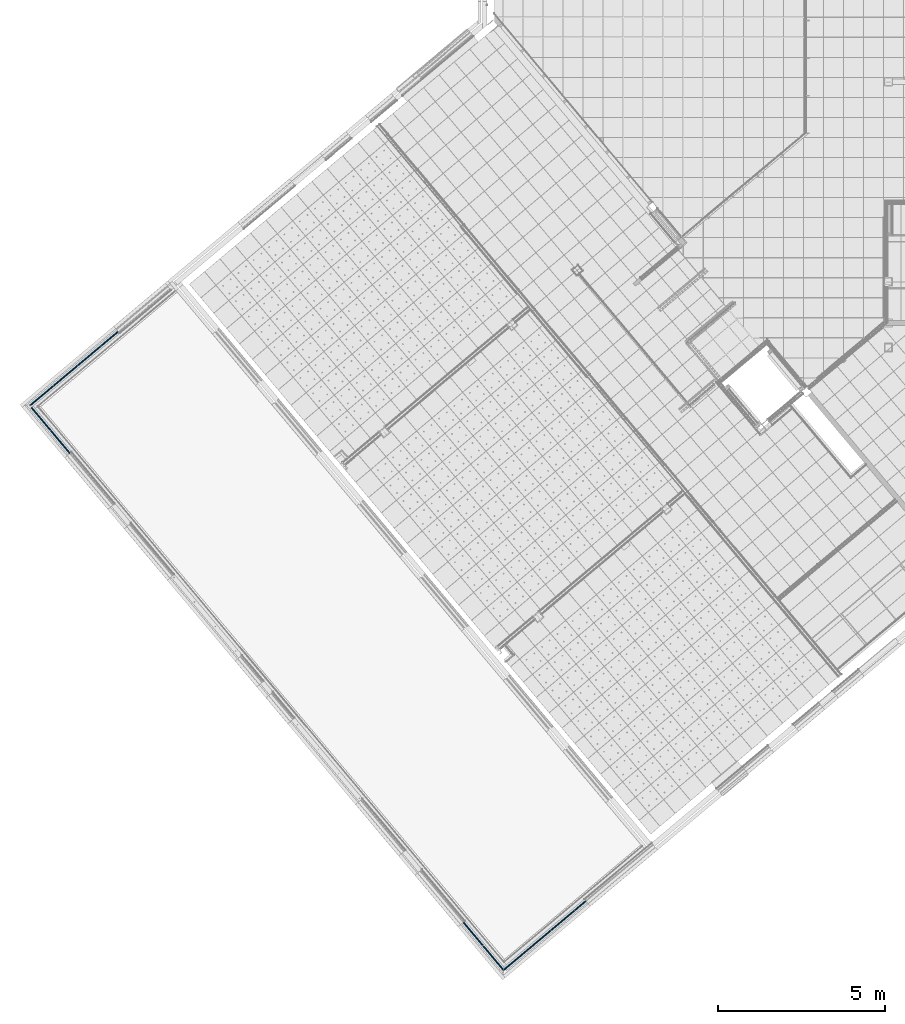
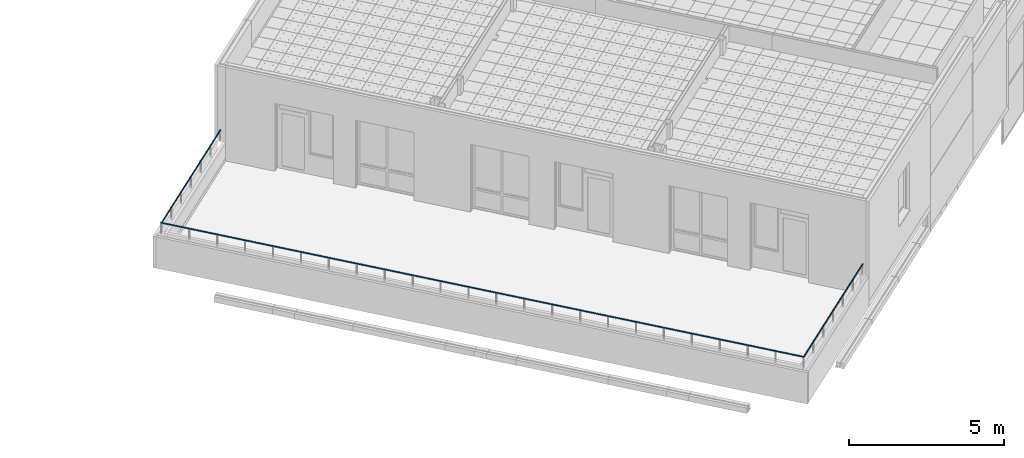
# One storey, part 31 of 321: 3 members, 1 element without a shape of its own.
"""IFC2X3 building model written with IfcOpenShell, lengths in millimetres."""

from ifc_helpers import new_model, entity, si_unit, converted_unit, derived_unit, money_unit, direction, frame, origin_with_axes, place, context, subcontext, project, spatial, faceted_brep, material, type_object, element, aggregate, save


model = new_model("IFC2X3")

# Units and contexts
model_context = context("Model", 3, precision=0.01, world=origin_with_axes(), true_north=direction((0.0, 1.0)))
plan_context = context("Plan", 3, precision=0.01, world=origin_with_axes(), true_north=direction((0.0, 1.0)))
body_context = subcontext(model_context, "Body", "Model", "MODEL_VIEW")
ifc_project = project(units=[si_unit("LENGTHUNIT", "METRE", prefix="MILLI"), si_unit("AREAUNIT", "SQUARE_METRE"), si_unit("VOLUMEUNIT", "CUBIC_METRE"), converted_unit("PLANEANGLEUNIT", "DEGREE", entity("IfcPlaneAngleMeasure", 0.0174532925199), si_unit("PLANEANGLEUNIT", "RADIAN"), dimensions=[0, 0, 0, 0, 0, 0, 0]), money_unit("EUR"), converted_unit("TIMEUNIT", "Year", entity("IfcTimeMeasure", 31556926.0), si_unit("TIMEUNIT", "SECOND"), dimensions=[0, 0, 1, 0, 0, 0, 0]), si_unit("MASSUNIT", "GRAM", prefix="KILO"), si_unit("THERMODYNAMICTEMPERATUREUNIT", "DEGREE_CELSIUS"), si_unit("LUMINOUSINTENSITYUNIT", "LUMEN"), si_unit("ENERGYUNIT", "JOULE", prefix="MEGA"), derived_unit("THERMALCONDUCTANCEUNIT", [(si_unit("POWERUNIT", "WATT"), 1), (si_unit("LENGTHUNIT", "METRE"), -1), (si_unit("THERMODYNAMICTEMPERATUREUNIT", "KELVIN"), -1)]), derived_unit("SPECIFICHEATCAPACITYUNIT", [(si_unit("ENERGYUNIT", "JOULE"), 1), (si_unit("MASSUNIT", "GRAM", prefix="KILO"), -1), (si_unit("THERMODYNAMICTEMPERATUREUNIT", "KELVIN"), -1)]), derived_unit("MASSDENSITYUNIT", [(si_unit("MASSUNIT", "GRAM", prefix="KILO"), 1), (si_unit("VOLUMEUNIT", "CUBIC_METRE"), -1)])], contexts=[model_context, plan_context])

# Site, building, storey
site_placement = place(None, origin_with_axes())
site = spatial("IfcSite", under=ifc_project, at=site_placement, Name="Fortuinstraat Woensdrecht", CompositionType="ELEMENT")
building_placement = place(site_placement, origin_with_axes())
building = spatial("IfcBuilding", under=site, at=building_placement, Name="IKC Fortuna", CompositionType="ELEMENT")
storey_placement = place(building_placement, frame((0.0, 0.0, 4000.0), z_axis=(0.0, 0.0, 1.0), x_axis=(1.0, 0.0, 0.0)))
storey = spatial("IfcBuildingStorey", under=building, at=storey_placement, Name="01 eerste verdieping", CompositionType="ELEMENT", Elevation=4000.0)

# Railing, members
railing_type = type_object("IfcRailingType", Name="Railing Type", PredefinedType="NOTDEFINED")
railing_placement = place(storey_placement, frame((4151.56334028, 3601.06192057, 2353.5), z_axis=(0.0, 0.0, 1.0), x_axis=(1.0, 0.0, 0.0)))
railing = element("IfcRailing", 1, at=railing_placement, inside=storey, type_object=railing_type, Name="34_Reling_Reling vide", PredefinedType="NOTDEFINED")
ifc_material = material(Name="Metaal - Staal AFW")
member_type = type_object("IfcMemberType", Name="IfcMember", PredefinedType="USERDEFINED")
member_1_placement = place(railing_placement, frame((-2118.70122323, -1803.90955766, 394.098300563), z_axis=(0.0, 0.0, 1.0), x_axis=(1.0, 0.0, 0.0)))
member_1 = element("IfcMember", 2, at=member_1_placement, type_object=member_type, material=ifc_material, Name="_Reling - regel_", context=body_context, shape_type="Brep", body=[
    faceted_brep([(2147.550051, 1769.3732735, 30.9016994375), (2147.3059163, 1769.66422191, 35.2429038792), (-2096.79464255, -1791.5589917, 35.2429038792), (-2096.25955944, -1791.60580541, 30.9016994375), (2147.3059163, 1769.66422191, 26.5604949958), (2146.5809301, 1770.52822682, 22.3511958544), (2145.39712074, 1771.93903587, 18.4016994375), (2143.79045767, 1773.85378235, 14.8320091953), (2141.80975854, 1776.21428766, 11.7505883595), (2139.51520588, 1778.94882904, 9.25106434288), (2136.97651852, 1781.97431882, 7.40938391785), (2134.27083319, 1785.19882904, 6.28150561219), (2131.48036076, 1788.52438458, 5.9016994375), (2128.68988833, 1791.84994011, 6.28150561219), (2125.984203, 1795.07445033, 7.40938391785), (2123.44551564, 1798.09994011, 9.25106434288), (2121.15096298, 1800.83448149, 11.7505883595), (2119.17026385, 1803.1949868, 14.8320091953), (2117.56360078, 1805.10973328, 18.4016994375), (2116.37979142, 1806.52054233, 22.3511958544), (2115.65480522, 1807.38454724, 26.5604949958), (2115.41067052, 1807.67549565, 30.9016994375), (2115.65480522, 1807.38454724, 35.2429038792), (2116.37979142, 1806.52054233, 39.4522030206), (2117.56360078, 1805.10973328, 43.4016994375), (2119.17026385, 1803.1949868, 46.9713896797), (2121.15096298, 1800.83448149, 50.0528105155), (2123.44551564, 1798.09994011, 52.5523345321), (2125.984203, 1795.07445033, 54.3940149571), (2128.68988833, 1791.84994011, 55.5218932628), (2131.48036076, 1788.52438458, 55.9016994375), (2134.27083319, 1785.19882904, 55.5218932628), (2136.97651852, 1781.97431882, 54.3940149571), (2139.51520588, 1778.94882904, 52.5523345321), (2141.80975854, 1776.21428766, 50.0528105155), (2143.79045767, 1773.85378235, 46.9713896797), (2145.39712074, 1771.93903587, 43.4016994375), (2146.5809301, 1770.52822682, 39.4522030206), (2146.26447578, 1770.90536238, 30.9016994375), (2146.03987186, 1771.17303492, 34.8956075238), (2145.37288455, 1771.96791944, 38.768162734), (2144.28377994, 1773.26586377, 42.4016994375), (2142.80564992, 1775.02743053, 45.6858144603), (2140.98340672, 1777.19909542, 48.5207216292), (2138.87241827, 1779.71487348, 50.8202837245), (2136.5368259, 1782.49832408, 52.5146297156), (2134.04759539, 1785.46487348, 53.5522777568), (2131.48036076, 1788.52438458, 53.9016994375), (2128.91312613, 1791.58389567, 53.5522777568), (2126.42389562, 1794.55044507, 52.5146297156), (2124.08830325, 1797.33389567, 50.8202837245), (2121.9773148, 1799.84967373, 48.5207216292), (2120.1550716, 1802.02133862, 45.6858144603), (2118.67694158, 1803.78290538, 42.4016994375), (2117.58783697, 1805.08084971, 38.768162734), (2116.92084966, 1805.87573423, 34.8956075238), (2116.69624574, 1806.14340677, 30.9016994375), (2116.92084966, 1805.87573423, 26.9077913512), (2117.58783697, 1805.08084971, 23.035236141), (2118.67694158, 1803.78290538, 19.4016994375), (2120.1550716, 1802.02133862, 16.1175844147), (2121.9773148, 1799.84967373, 13.2826772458), (2124.08830325, 1797.33389567, 10.9831151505), (2126.42389562, 1794.55044507, 9.28876915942), (2128.91312613, 1791.58389567, 8.25112111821), (2131.48036076, 1788.52438458, 7.90169943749), (2134.04759539, 1785.46487348, 8.25112111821), (2136.5368259, 1782.49832408, 9.28876915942), (2138.87241827, 1779.71487348, 10.9831151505), (2140.98340672, 1777.19909542, 13.2826772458), (2142.80564992, 1775.02743053, 16.1175844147), (2144.28377994, 1773.26586377, 19.4016994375), (2145.37288455, 1771.96791944, 23.035236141), (2146.03987186, 1771.17303492, 26.9077913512), (-2098.38363366, -1791.41997299, 39.4522030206), (-2100.97825207, -1791.1929733, 43.4016994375), (-2104.49966162, -1790.88488988, 46.9713896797), (-2108.84086607, -1790.50508371, 50.0528105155), (-2113.8699601, -1790.06509499, 52.5523345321), (-2119.43413724, -1789.57829257, 54.3940149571), (-2125.36433279, -1789.05946769, 55.5218932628), (-2131.48036076, -1788.52438458, 55.9016994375), (-2137.59638873, -1787.98930146, 55.5218932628), (-2143.52658428, -1787.47047658, 54.3940149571), (-2149.09076142, -1786.98367416, 52.5523345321), (-2154.11985545, -1786.54368544, 50.0528105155), (-2158.4610599, -1786.16387927, 46.9713896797), (-2161.98246945, -1785.85579585, 43.4016994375), (-2164.57708786, -1785.62879616, 39.4522030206), (-2166.16607897, -1785.48977745, 35.2429038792), (-2166.70116208, -1785.44296374, 30.9016994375), (-2166.16607897, -1785.48977745, 26.5604949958), (-2164.57708786, -1785.62879616, 22.3511958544), (-2161.98246945, -1785.85579585, 18.4016994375), (-2158.4610599, -1786.16387927, 14.8320091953), (-2154.11985545, -1786.54368544, 11.7505883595), (-2149.09076142, -1786.98367416, 9.25106434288), (-2143.52658428, -1787.47047658, 7.40938391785), (-2137.59638873, -1787.98930146, 6.28150561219), (-2131.48036076, -1788.52438458, 5.9016994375), (-2125.36433279, -1789.05946769, 6.28150561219), (-2119.43413724, -1789.57829257, 7.40938391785), (-2113.8699601, -1790.06509499, 9.25106434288), (-2108.84086607, -1790.50508371, 11.7505883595), (-2104.49966162, -1790.88488988, 14.8320091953), (-2100.97825207, -1791.1929733, 18.4016994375), (-2098.38363366, -1791.41997299, 22.3511958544), (-2096.79464255, -1791.5589917, 26.5604949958), (-2099.07722354, -1791.35929174, 30.9016994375), (-2099.56950001, -1791.31622313, 26.9077913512), (-2101.03137183, -1791.18832592, 23.035236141), (-2103.41842077, -1790.9794862, 19.4016994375), (-2106.65811755, -1790.69604946, 16.1175844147), (-2110.65202564, -1790.34662778, 13.2826772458), (-2115.27879215, -1789.94183816, 10.9831151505), (-2120.39783512, -1789.49397993, 9.28876915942), (-2125.85361503, -1789.01666104, 8.25112111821), (-2131.48036076, -1788.52438458, 7.90169943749), (-2137.10710649, -1788.03210811, 8.25112111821), (-2142.56288639, -1787.55478922, 9.28876915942), (-2147.68192937, -1787.10693099, 10.9831151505), (-2152.30869588, -1786.70214137, 13.2826772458), (-2156.30260396, -1786.35271969, 16.1175844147), (-2159.54230075, -1786.06928295, 19.4016994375), (-2161.92934969, -1785.86044323, 23.035236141), (-2163.39122151, -1785.73254602, 26.9077913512), (-2163.88349798, -1785.68947741, 30.9016994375), (-2163.39122151, -1785.73254602, 34.8956075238), (-2161.92934969, -1785.86044323, 38.768162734), (-2159.54230075, -1786.06928295, 42.4016994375), (-2156.30260396, -1786.35271969, 45.6858144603), (-2152.30869588, -1786.70214137, 48.5207216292), (-2147.68192937, -1787.10693099, 50.8202837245), (-2142.56288639, -1787.55478922, 52.5146297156), (-2137.10710649, -1788.03210811, 53.5522777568), (-2131.48036076, -1788.52438458, 53.9016994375), (-2125.85361503, -1789.01666104, 53.5522777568), (-2120.39783512, -1789.49397993, 52.5146297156), (-2115.27879215, -1789.94183816, 50.8202837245), (-2110.65202564, -1790.34662778, 48.5207216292), (-2106.65811755, -1790.69604946, 45.6858144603), (-2103.41842077, -1790.9794862, 42.4016994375), (-2101.03137183, -1791.18832592, 38.768162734), (-2099.56950001, -1791.31622313, 34.8956075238)], [[[0, 1, 2, 3]], [[0, 4, 5, 6, 7, 8, 9, 10, 11, 12, 13, 14, 15, 16, 17, 18, 19, 20, 21, 22, 23, 24, 25, 26, 27, 28, 29, 30, 31, 32, 33, 34, 35, 36, 37, 1], [38, 39, 40, 41, 42, 43, 44, 45, 46, 47, 48, 49, 50, 51, 52, 53, 54, 55, 56, 57, 58, 59, 60, 61, 62, 63, 64, 65, 66, 67, 68, 69, 70, 71, 72, 73]], [[1, 37, 74, 2]], [[3, 2, 74, 75, 76, 77, 78, 79, 80, 81, 82, 83, 84, 85, 86, 87, 88, 89, 90, 91, 92, 93, 94, 95, 96, 97, 98, 99, 100, 101, 102, 103, 104, 105, 106, 107], [108, 109, 110, 111, 112, 113, 114, 115, 116, 117, 118, 119, 120, 121, 122, 123, 124, 125, 126, 127, 128, 129, 130, 131, 132, 133, 134, 135, 136, 137, 138, 139, 140, 141, 142, 143]], [[4, 0, 3, 107]], [[5, 4, 107, 106]], [[6, 5, 106, 105]], [[7, 6, 105, 104]], [[8, 7, 104, 103]], [[9, 8, 103, 102]], [[10, 9, 102, 101]], [[11, 10, 101, 100]], [[12, 11, 100, 99]], [[13, 12, 99, 98]], [[14, 13, 98, 97]], [[15, 14, 97, 96]], [[16, 15, 96, 95]], [[17, 16, 95, 94]], [[18, 17, 94, 93]], [[19, 18, 93, 92]], [[20, 19, 92, 91]], [[21, 20, 91, 90]], [[22, 21, 90, 89]], [[23, 22, 89, 88]], [[24, 23, 88, 87]], [[25, 24, 87, 86]], [[26, 25, 86, 85]], [[27, 26, 85, 84]], [[28, 27, 84, 83]], [[29, 28, 83, 82]], [[30, 29, 82, 81]], [[31, 30, 81, 80]], [[32, 31, 80, 79]], [[33, 32, 79, 78]], [[34, 33, 78, 77]], [[35, 34, 77, 76]], [[36, 35, 76, 75]], [[37, 36, 75, 74]], [[39, 38, 108, 143]], [[40, 39, 143, 142]], [[41, 40, 142, 141]], [[42, 41, 141, 140]], [[43, 42, 140, 139]], [[44, 43, 139, 138]], [[45, 44, 138, 137]], [[46, 45, 137, 136]], [[47, 46, 136, 135]], [[48, 47, 135, 134]], [[49, 48, 134, 133]], [[50, 49, 133, 132]], [[51, 50, 132, 131]], [[52, 51, 131, 130]], [[53, 52, 130, 129]], [[54, 53, 129, 128]], [[55, 54, 128, 127]], [[56, 55, 127, 126]], [[57, 56, 126, 125]], [[58, 57, 125, 124]], [[59, 58, 124, 123]], [[60, 59, 123, 122]], [[61, 60, 122, 121]], [[62, 61, 121, 120]], [[63, 62, 120, 119]], [[64, 63, 119, 118]], [[65, 64, 118, 117]], [[66, 65, 117, 116]], [[67, 66, 116, 115]], [[68, 67, 115, 114]], [[69, 68, 114, 113]], [[70, 69, 113, 112]], [[71, 70, 112, 111]], [[72, 71, 111, 110]], [[73, 72, 110, 109]], [[38, 73, 109, 108]]]),
])
member_2_placement = place(railing_placement, frame((2842.33687427, -12044.9682928, 394.098300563), z_axis=(0.0, 0.0, 1.0), x_axis=(1.0, 0.0, 0.0)))
member_2 = element("IfcMember", 3, at=member_2_placement, type_object=member_type, material=ifc_material, Name="_Reling - regel_", context=body_context, shape_type="Brep", body=[
    faceted_brep([(-7057.29765694, 8449.45292976, 30.9016994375), (-7057.83274005, 8449.49974347, 35.2429038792), (7095.55307328, -8417.84864179, 35.2429038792), (7095.5998871, -8417.31355882, 30.9016994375), (-7057.83274005, 8449.49974347, 26.5604949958), (-7059.42173116, 8449.63876217, 22.3511958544), (-7062.01634957, 8449.86576187, 18.4016994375), (-7065.53775912, 8450.17384529, 14.8320091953), (-7069.87896357, 8450.55365146, 11.7505883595), (-7074.9080576, 8450.99364018, 9.25106434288), (-7080.47223474, 8451.4804426, 7.40938391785), (-7086.40243029, 8451.99926748, 6.28150561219), (-7092.51845826, 8452.53435059, 5.9016994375), (-7098.63448622, 8453.06943371, 6.28150561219), (-7104.56468178, 8453.58825859, 7.40938391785), (-7110.12885892, 8454.07506101, 9.25106434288), (-7115.15795295, 8454.51504972, 11.7505883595), (-7119.49915739, 8454.8948559, 14.8320091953), (-7123.02056695, 8455.20293931, 18.4016994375), (-7125.61518536, 8455.42993901, 22.3511958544), (-7127.20417647, 8455.56895772, 26.5604949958), (-7127.73925958, 8455.61577143, 30.9016994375), (-7127.20417647, 8455.56895772, 35.2429038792), (-7125.61518536, 8455.42993901, 39.4522030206), (-7123.02056695, 8455.20293931, 43.4016994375), (-7119.49915739, 8454.8948559, 46.9713896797), (-7115.15795295, 8454.51504972, 50.0528105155), (-7110.12885892, 8454.07506101, 52.5523345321), (-7104.56468178, 8453.58825859, 54.3940149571), (-7098.63448622, 8453.06943371, 55.5218932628), (-7092.51845826, 8452.53435059, 55.9016994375), (-7086.40243029, 8451.99926748, 55.5218932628), (-7080.47223474, 8451.4804426, 54.3940149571), (-7074.9080576, 8450.99364018, 52.5523345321), (-7069.87896357, 8450.55365146, 50.0528105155), (-7065.53775912, 8450.17384529, 46.9713896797), (-7062.01634957, 8449.86576187, 43.4016994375), (-7059.42173116, 8449.63876217, 39.4522030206), (-7060.11532104, 8449.69944343, 30.9016994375), (-7060.60759751, 8449.74251204, 34.8956075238), (-7062.06946933, 8449.87040925, 38.768162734), (-7064.45651827, 8450.07924897, 42.4016994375), (-7067.69621505, 8450.36268571, 45.6858144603), (-7071.69012314, 8450.71210739, 48.5207216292), (-7076.31688965, 8451.11689701, 50.8202837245), (-7081.43593262, 8451.56475524, 52.5146297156), (-7086.89171253, 8452.04207413, 53.5522777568), (-7092.51845826, 8452.53435059, 53.9016994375), (-7098.14520399, 8453.02662706, 53.5522777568), (-7103.60098389, 8453.50394595, 52.5146297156), (-7108.72002687, 8453.95180418, 50.8202837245), (-7113.34679338, 8454.35659379, 48.5207216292), (-7117.34070146, 8454.70601547, 45.6858144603), (-7120.58039825, 8454.98945222, 42.4016994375), (-7122.96744719, 8455.19829194, 38.768162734), (-7124.42931901, 8455.32618915, 34.8956075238), (-7124.92159548, 8455.36925776, 30.9016994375), (-7124.42931901, 8455.32618915, 26.9077913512), (-7122.96744719, 8455.19829194, 23.035236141), (-7120.58039825, 8454.98945222, 19.4016994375), (-7117.34070146, 8454.70601547, 16.1175844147), (-7113.34679338, 8454.35659379, 13.2826772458), (-7108.72002687, 8453.95180418, 10.9831151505), (-7103.60098389, 8453.50394595, 9.28876915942), (-7098.14520399, 8453.02662706, 8.25112111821), (-7092.51845826, 8452.53435059, 7.90169943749), (-7086.89171253, 8452.04207413, 8.25112111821), (-7081.43593262, 8451.56475524, 9.28876915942), (-7076.31688965, 8451.11689701, 10.9831151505), (-7071.69012314, 8450.71210739, 13.2826772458), (-7067.69621505, 8450.36268571, 16.1175844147), (-7064.45651827, 8450.07924897, 19.4016994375), (-7062.06946933, 8449.87040925, 23.035236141), (-7060.60759751, 8449.74251204, 26.9077913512), (7095.41405421, -8419.43763247, 39.4522030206), (7095.18705392, -8422.03225018, 43.4016994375), (7094.8789697, -8425.55365877, 46.9713896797), (7094.49916254, -8429.89486204, 50.0528105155), (7094.05917268, -8434.92395471, 52.5523345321), (7093.57236899, -8440.48813034, 54.3940149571), (7093.05354276, -8446.41832429, 55.5218932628), (7092.51845826, -8452.53435059, 55.9016994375), (7091.98337376, -8458.6503769, 55.5218932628), (7091.46454752, -8464.58057084, 54.3940149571), (7090.97774384, -8470.14474648, 52.5523345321), (7090.53775398, -8475.17383915, 50.0528105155), (7090.15794682, -8479.51504241, 46.9713896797), (7089.8498626, -8483.03645101, 43.4016994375), (7089.62286231, -8485.63106872, 39.4522030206), (7089.48384324, -8487.2200594, 35.2429038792), (7089.43702941, -8487.75514236, 30.9016994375), (7089.48384324, -8487.2200594, 26.5604949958), (7089.62286231, -8485.63106872, 22.3511958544), (7089.8498626, -8483.03645101, 18.4016994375), (7090.15794682, -8479.51504241, 14.8320091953), (7090.53775398, -8475.17383915, 11.7505883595), (7090.97774384, -8470.14474648, 9.25106434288), (7091.46454752, -8464.58057084, 7.40938391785), (7091.98337376, -8458.6503769, 6.28150561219), (7092.51845826, -8452.53435059, 5.9016994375), (7093.05354276, -8446.41832429, 6.28150561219), (7093.57236899, -8440.48813034, 7.40938391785), (7094.05917268, -8434.92395471, 9.25106434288), (7094.49916254, -8429.89486204, 11.7505883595), (7094.8789697, -8425.55365877, 14.8320091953), (7095.18705392, -8422.03225018, 18.4016994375), (7095.41405421, -8419.43763247, 22.3511958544), (7095.55307328, -8417.84864179, 26.5604949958), (7095.3533728, -8420.13122216, 30.9016994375), (7095.31030407, -8420.62349849, 26.9077913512), (7095.18240653, -8422.08536992, 23.035236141), (7094.97356627, -8424.47241821, 19.4016994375), (7094.69012879, -8427.71211412, 16.1175844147), (7094.3407062, -8431.70602112, 13.2826772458), (7093.93591553, -8436.33278638, 10.9831151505), (7093.48805614, -8441.45182796, 9.28876915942), (7093.010736, -8446.90760639, 8.25112111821), (7092.51845826, -8452.53435059, 7.90169943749), (7092.02618052, -8458.1610948, 8.25112111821), (7091.54886038, -8463.61687322, 9.28876915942), (7091.10100099, -8468.73591481, 10.9831151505), (7090.69621032, -8473.36268006, 13.2826772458), (7090.34678773, -8477.35658707, 16.1175844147), (7090.06335025, -8480.59628297, 19.4016994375), (7089.85450999, -8482.98333127, 23.035236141), (7089.72661244, -8484.44520269, 26.9077913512), (7089.68354372, -8484.93747902, 30.9016994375), (7089.72661244, -8484.44520269, 34.8956075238), (7089.85450999, -8482.98333127, 38.768162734), (7090.06335025, -8480.59628297, 42.4016994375), (7090.34678773, -8477.35658707, 45.6858144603), (7090.69621032, -8473.36268006, 48.5207216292), (7091.10100099, -8468.73591481, 50.8202837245), (7091.54886038, -8463.61687322, 52.5146297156), (7092.02618052, -8458.1610948, 53.5522777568), (7092.51845826, -8452.53435059, 53.9016994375), (7093.010736, -8446.90760639, 53.5522777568), (7093.48805614, -8441.45182796, 52.5146297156), (7093.93591553, -8436.33278638, 50.8202837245), (7094.3407062, -8431.70602112, 48.5207216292), (7094.69012879, -8427.71211412, 45.6858144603), (7094.97356627, -8424.47241821, 42.4016994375), (7095.18240653, -8422.08536992, 38.768162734), (7095.31030407, -8420.62349849, 34.8956075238)], [[[0, 1, 2, 3]], [[0, 4, 5, 6, 7, 8, 9, 10, 11, 12, 13, 14, 15, 16, 17, 18, 19, 20, 21, 22, 23, 24, 25, 26, 27, 28, 29, 30, 31, 32, 33, 34, 35, 36, 37, 1], [38, 39, 40, 41, 42, 43, 44, 45, 46, 47, 48, 49, 50, 51, 52, 53, 54, 55, 56, 57, 58, 59, 60, 61, 62, 63, 64, 65, 66, 67, 68, 69, 70, 71, 72, 73]], [[1, 37, 74, 2]], [[3, 2, 74, 75, 76, 77, 78, 79, 80, 81, 82, 83, 84, 85, 86, 87, 88, 89, 90, 91, 92, 93, 94, 95, 96, 97, 98, 99, 100, 101, 102, 103, 104, 105, 106, 107], [108, 109, 110, 111, 112, 113, 114, 115, 116, 117, 118, 119, 120, 121, 122, 123, 124, 125, 126, 127, 128, 129, 130, 131, 132, 133, 134, 135, 136, 137, 138, 139, 140, 141, 142, 143]], [[4, 0, 3, 107]], [[5, 4, 107, 106]], [[6, 5, 106, 105]], [[7, 6, 105, 104]], [[8, 7, 104, 103]], [[9, 8, 103, 102]], [[10, 9, 102, 101]], [[11, 10, 101, 100]], [[12, 11, 100, 99]], [[13, 12, 99, 98]], [[14, 13, 98, 97]], [[15, 14, 97, 96]], [[16, 15, 96, 95]], [[17, 16, 95, 94]], [[18, 17, 94, 93]], [[19, 18, 93, 92]], [[20, 19, 92, 91]], [[21, 20, 91, 90]], [[22, 21, 90, 89]], [[23, 22, 89, 88]], [[24, 23, 88, 87]], [[25, 24, 87, 86]], [[26, 25, 86, 85]], [[27, 26, 85, 84]], [[28, 27, 84, 83]], [[29, 28, 83, 82]], [[30, 29, 82, 81]], [[31, 30, 81, 80]], [[32, 31, 80, 79]], [[33, 32, 79, 78]], [[34, 33, 78, 77]], [[35, 34, 77, 76]], [[36, 35, 76, 75]], [[37, 36, 75, 74]], [[39, 38, 108, 143]], [[40, 39, 143, 142]], [[41, 40, 142, 141]], [[42, 41, 141, 140]], [[43, 42, 140, 139]], [[44, 43, 139, 138]], [[45, 44, 138, 137]], [[46, 45, 137, 136]], [[47, 46, 136, 135]], [[48, 47, 135, 134]], [[49, 48, 134, 133]], [[50, 49, 133, 132]], [[51, 50, 132, 131]], [[52, 51, 131, 130]], [[53, 52, 130, 129]], [[54, 53, 129, 128]], [[55, 54, 128, 127]], [[56, 55, 127, 126]], [[57, 56, 126, 125]], [[58, 57, 125, 124]], [[59, 58, 124, 123]], [[60, 59, 123, 122]], [[61, 60, 122, 121]], [[62, 61, 121, 120]], [[63, 62, 120, 119]], [[64, 63, 119, 118]], [[65, 64, 118, 117]], [[66, 65, 117, 116]], [[67, 66, 116, 115]], [[68, 67, 115, 114]], [[69, 68, 114, 113]], [[70, 69, 113, 112]], [[71, 70, 112, 111]], [[72, 71, 111, 110]], [[73, 72, 110, 109]], [[38, 73, 109, 108]]]),
])
member_3_placement = place(railing_placement, frame((12066.3748578, -18708.9472068, 394.098300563), z_axis=(0.0, 0.0, 1.0), x_axis=(1.0, 0.0, 0.0)))
member_3 = element("IfcMember", 4, at=member_3_placement, type_object=member_type, material=ifc_material, Name="_Reling - regel_", context=body_context, shape_type="Brep", body=[
    faceted_brep([(-2128.4380964, -1753.3346449, 30.9016994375), (-2128.48491023, -1753.86972786, 35.2429038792), (2115.69397911, 1807.41560722, 35.2429038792), (2115.44984455, 1807.70655575, 30.9016994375), (-2128.48491023, -1753.86972786, 26.5604949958), (-2128.6239293, -1755.45871854, 22.3511958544), (-2128.85092959, -1758.05333625, 18.4016994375), (-2129.1590138, -1761.57474485, 14.8320091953), (-2129.53882096, -1765.91594811, 11.7505883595), (-2129.97881082, -1770.94504078, 9.25106434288), (-2130.46561451, -1776.50921642, 7.40938391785), (-2130.98444074, -1782.43941036, 6.28150561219), (-2131.51952524, -1788.55543667, 5.9016994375), (-2132.05460975, -1794.67146297, 6.28150561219), (-2132.57343598, -1800.60165692, 7.40938391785), (-2133.06023967, -1806.16583255, 9.25106434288), (-2133.50022953, -1811.19492522, 11.7505883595), (-2133.88003669, -1815.53612848, 14.8320091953), (-2134.1881209, -1819.05753708, 18.4016994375), (-2134.41512119, -1821.65215479, 22.3511958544), (-2134.55414026, -1823.24114547, 26.5604949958), (-2134.60095409, -1823.77622844, 30.9016994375), (-2134.55414026, -1823.24114547, 35.2429038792), (-2134.41512119, -1821.65215479, 39.4522030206), (-2134.1881209, -1819.05753708, 43.4016994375), (-2133.88003669, -1815.53612848, 46.9713896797), (-2133.50022953, -1811.19492522, 50.0528105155), (-2133.06023967, -1806.16583255, 52.5523345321), (-2132.57343598, -1800.60165692, 54.3940149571), (-2132.05460975, -1794.67146297, 55.5218932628), (-2131.51952524, -1788.55543667, 55.9016994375), (-2130.98444074, -1782.43941036, 55.5218932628), (-2130.46561451, -1776.50921642, 54.3940149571), (-2129.97881082, -1770.94504078, 52.5523345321), (-2129.53882096, -1765.91594811, 50.0528105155), (-2129.1590138, -1761.57474485, 46.9713896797), (-2128.85092959, -1758.05333625, 43.4016994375), (-2128.6239293, -1755.45871854, 39.4522030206), (-2128.68461071, -1756.15230824, 30.9016994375), (-2128.72767943, -1756.64458457, 34.8956075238), (-2128.85557697, -1758.10645599, 38.768162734), (-2129.06441724, -1760.49350428, 42.4016994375), (-2129.34785472, -1763.73320019, 45.6858144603), (-2129.69727731, -1767.7271072, 48.5207216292), (-2130.10206798, -1772.35387245, 50.8202837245), (-2130.54992737, -1777.47291404, 52.5146297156), (-2131.0272475, -1782.92869246, 53.5522777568), (-2131.51952524, -1788.55543667, 53.9016994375), (-2132.01180299, -1794.18218087, 53.5522777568), (-2132.48912312, -1799.6379593, 52.5146297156), (-2132.93698251, -1804.75700088, 50.8202837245), (-2133.34177318, -1809.38376613, 48.5207216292), (-2133.69119577, -1813.37767314, 45.6858144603), (-2133.97463325, -1816.61736905, 42.4016994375), (-2134.18347352, -1819.00441734, 38.768162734), (-2134.31137106, -1820.46628876, 34.8956075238), (-2134.35443978, -1820.95856509, 30.9016994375), (-2134.31137106, -1820.46628876, 26.9077913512), (-2134.18347352, -1819.00441734, 23.035236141), (-2133.97463325, -1816.61736905, 19.4016994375), (-2133.69119577, -1813.37767314, 16.1175844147), (-2133.34177318, -1809.38376613, 13.2826772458), (-2132.93698251, -1804.75700088, 10.9831151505), (-2132.48912312, -1799.6379593, 9.28876915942), (-2132.01180299, -1794.18218087, 8.25112111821), (-2131.51952524, -1788.55543667, 7.90169943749), (-2131.0272475, -1782.92869246, 8.25112111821), (-2130.54992737, -1777.47291404, 9.28876915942), (-2130.10206798, -1772.35387245, 10.9831151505), (-2129.69727731, -1767.7271072, 13.2826772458), (-2129.34785472, -1763.73320019, 16.1175844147), (-2129.06441724, -1760.49350428, 19.4016994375), (-2128.85557697, -1758.10645599, 23.035236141), (-2128.72767943, -1756.64458457, 26.9077913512), (2116.41896488, 1806.55160195, 39.4522030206), (2117.60277353, 1805.14079231, 43.4016994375), (2119.20943565, 1803.22604502, 46.9713896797), (2121.1901336, 1800.86553873, 50.0528105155), (2123.4846849, 1798.13099621, 52.5523345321), (2126.02337075, 1795.10550516, 54.3940149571), (2128.72905448, 1791.8809936, 55.5218932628), (2131.51952524, 1788.55543667, 55.9016994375), (2134.30999601, 1785.22987974, 55.5218932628), (2137.01567974, 1782.00536817, 54.3940149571), (2139.55436559, 1778.97987712, 52.5523345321), (2141.84891689, 1776.2453346, 50.0528105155), (2143.82961484, 1773.88482831, 46.9713896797), (2145.43627696, 1771.97008102, 43.4016994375), (2146.62008561, 1770.55927138, 39.4522030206), (2147.34507138, 1769.69526611, 35.2429038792), (2147.58920594, 1769.40431758, 30.9016994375), (2147.34507138, 1769.69526611, 26.5604949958), (2146.62008561, 1770.55927138, 22.3511958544), (2145.43627696, 1771.97008102, 18.4016994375), (2143.82961484, 1773.88482831, 14.8320091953), (2141.84891689, 1776.2453346, 11.7505883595), (2139.55436559, 1778.97987712, 9.25106434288), (2137.01567974, 1782.00536817, 7.40938391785), (2134.30999601, 1785.22987974, 6.28150561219), (2131.51952524, 1788.55543667, 5.9016994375), (2128.72905448, 1791.8809936, 6.28150561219), (2126.02337075, 1795.10550516, 7.40938391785), (2123.4846849, 1798.13099621, 9.25106434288), (2121.1901336, 1800.86553873, 11.7505883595), (2119.20943565, 1803.22604502, 14.8320091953), (2117.60277353, 1805.14079231, 18.4016994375), (2116.41896488, 1806.55160195, 22.3511958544), (2115.69397911, 1807.41560722, 26.5604949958), (2116.73541901, 1806.17446623, 30.9016994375), (2116.9600228, 1805.90679358, 26.9077913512), (2117.62700971, 1805.11190873, 23.035236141), (2118.71611367, 1803.81396386, 19.4016994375), (2120.19424281, 1802.05239635, 16.1175844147), (2122.01648493, 1799.88073056, 13.2826772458), (2124.12747212, 1797.36495145, 10.9831151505), (2126.46306311, 1794.58149968, 9.28876915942), (2128.95229214, 1791.61494904, 8.25112111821), (2131.51952524, 1788.55543667, 7.90169943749), (2134.08675835, 1785.49592429, 8.25112111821), (2136.57598738, 1782.52937365, 9.28876915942), (2138.91157836, 1779.74592188, 10.9831151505), (2141.02256556, 1777.23014277, 13.2826772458), (2142.84480768, 1775.05847698, 16.1175844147), (2144.32293682, 1773.29690947, 19.4016994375), (2145.41204078, 1771.9989646, 23.035236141), (2146.07902769, 1771.20407975, 26.9077913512), (2146.30363148, 1770.9364071, 30.9016994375), (2146.07902769, 1771.20407975, 34.8956075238), (2145.41204078, 1771.9989646, 38.768162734), (2144.32293682, 1773.29690947, 42.4016994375), (2142.84480768, 1775.05847698, 45.6858144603), (2141.02256556, 1777.23014277, 48.5207216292), (2138.91157836, 1779.74592188, 50.8202837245), (2136.57598738, 1782.52937365, 52.5146297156), (2134.08675835, 1785.49592429, 53.5522777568), (2131.51952524, 1788.55543667, 53.9016994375), (2128.95229214, 1791.61494904, 53.5522777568), (2126.46306311, 1794.58149968, 52.5146297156), (2124.12747212, 1797.36495145, 50.8202837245), (2122.01648493, 1799.88073056, 48.5207216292), (2120.19424281, 1802.05239635, 45.6858144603), (2118.71611367, 1803.81396386, 42.4016994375), (2117.62700971, 1805.11190873, 38.768162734), (2116.9600228, 1805.90679358, 34.8956075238)], [[[0, 1, 2, 3]], [[0, 4, 5, 6, 7, 8, 9, 10, 11, 12, 13, 14, 15, 16, 17, 18, 19, 20, 21, 22, 23, 24, 25, 26, 27, 28, 29, 30, 31, 32, 33, 34, 35, 36, 37, 1], [38, 39, 40, 41, 42, 43, 44, 45, 46, 47, 48, 49, 50, 51, 52, 53, 54, 55, 56, 57, 58, 59, 60, 61, 62, 63, 64, 65, 66, 67, 68, 69, 70, 71, 72, 73]], [[1, 37, 74, 2]], [[3, 2, 74, 75, 76, 77, 78, 79, 80, 81, 82, 83, 84, 85, 86, 87, 88, 89, 90, 91, 92, 93, 94, 95, 96, 97, 98, 99, 100, 101, 102, 103, 104, 105, 106, 107], [108, 109, 110, 111, 112, 113, 114, 115, 116, 117, 118, 119, 120, 121, 122, 123, 124, 125, 126, 127, 128, 129, 130, 131, 132, 133, 134, 135, 136, 137, 138, 139, 140, 141, 142, 143]], [[4, 0, 3, 107]], [[5, 4, 107, 106]], [[6, 5, 106, 105]], [[7, 6, 105, 104]], [[8, 7, 104, 103]], [[9, 8, 103, 102]], [[10, 9, 102, 101]], [[11, 10, 101, 100]], [[12, 11, 100, 99]], [[13, 12, 99, 98]], [[14, 13, 98, 97]], [[15, 14, 97, 96]], [[16, 15, 96, 95]], [[17, 16, 95, 94]], [[18, 17, 94, 93]], [[19, 18, 93, 92]], [[20, 19, 92, 91]], [[21, 20, 91, 90]], [[22, 21, 90, 89]], [[23, 22, 89, 88]], [[24, 23, 88, 87]], [[25, 24, 87, 86]], [[26, 25, 86, 85]], [[27, 26, 85, 84]], [[28, 27, 84, 83]], [[29, 28, 83, 82]], [[30, 29, 82, 81]], [[31, 30, 81, 80]], [[32, 31, 80, 79]], [[33, 32, 79, 78]], [[34, 33, 78, 77]], [[35, 34, 77, 76]], [[36, 35, 76, 75]], [[37, 36, 75, 74]], [[39, 38, 108, 143]], [[40, 39, 143, 142]], [[41, 40, 142, 141]], [[42, 41, 141, 140]], [[43, 42, 140, 139]], [[44, 43, 139, 138]], [[45, 44, 138, 137]], [[46, 45, 137, 136]], [[47, 46, 136, 135]], [[48, 47, 135, 134]], [[49, 48, 134, 133]], [[50, 49, 133, 132]], [[51, 50, 132, 131]], [[52, 51, 131, 130]], [[53, 52, 130, 129]], [[54, 53, 129, 128]], [[55, 54, 128, 127]], [[56, 55, 127, 126]], [[57, 56, 126, 125]], [[58, 57, 125, 124]], [[59, 58, 124, 123]], [[60, 59, 123, 122]], [[61, 60, 122, 121]], [[62, 61, 121, 120]], [[63, 62, 120, 119]], [[64, 63, 119, 118]], [[65, 64, 118, 117]], [[66, 65, 117, 116]], [[67, 66, 116, 115]], [[68, 67, 115, 114]], [[69, 68, 114, 113]], [[70, 69, 113, 112]], [[71, 70, 112, 111]], [[72, 71, 111, 110]], [[73, 72, 110, 109]], [[38, 73, 109, 108]]]),
])
aggregate(railing, [member_1, member_2, member_3])

save(model, "model.ifc")
